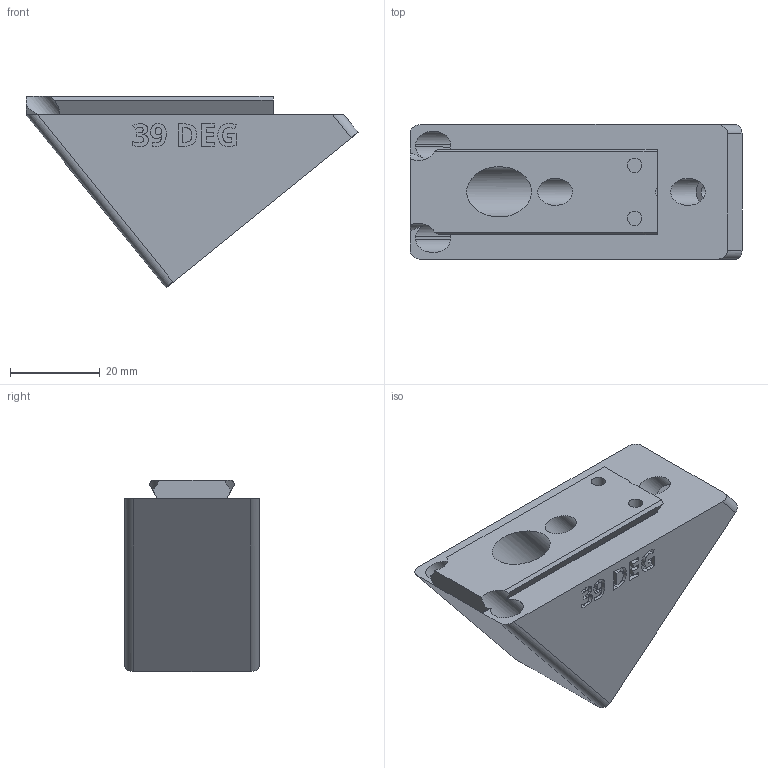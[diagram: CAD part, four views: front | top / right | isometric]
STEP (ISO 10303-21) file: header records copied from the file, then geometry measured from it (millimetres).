
FILE_DESCRIPTION(/* description */ ('STEP AP242 Edition 2','CAx-IF Rec.Pracs.---Representation and Presentation of Product Manufacturing Information (PMI)---4.0---2014-10-13','CAx-IF Rec.Pracs.---3D Tessellated Geometry---0.4---2014-09-14','2;1','CAx-IF Rec.Pracs.---User Defined Attributes---1.5---2016-08-15'),/* implementation_level */ '2;1');
FILE_NAME(/* name */ 'Camera Wedges - CAMERA MOUNTING WEDGE, POS, 39 DEG',/* time_stamp */ '2026-07-08T20:40:10Z',/* author */ (''),/* organization */ (''),/* preprocessor_version */ 'ST-DEVELOPER v20',/* originating_system */ 'ONSHAPE BY PTC INC, 1.217',/* authorisation */ ' ');
FILE_SCHEMA (('AP242_MANAGED_MODEL_BASED_3D_ENGINEERING_MIM_LF { 1 0 10303 442 3 1 4 }'));
Length unit declared in the file: metre
Products named in the file (1): CAMERA MOUNTING WEDGE, POS, 39 DEG
Bounding box: 73.92 x 30 x 42.6 mm (x, y, z)
Volume: 40337 mm3; surface area: 13183.4 mm2
Topology: 1 solids, 1 shells, 282 faces, 781 edges, 521 vertices
Faces by surface type: plane 127, bspline 106, cylinder 49
Full cylindrical faces by diameter (mm): 3.2 x4, 6 x2, 6.4 x1, 11.2 x1
Entity records: 9322 total; most frequent: CARTESIAN_POINT 2737, ORIENTED_EDGE 1540, DIRECTION 1022, EDGE_CURVE 770, VERTEX_POINT 518, LINE 448, VECTOR 448, EDGE_LOOP 320
